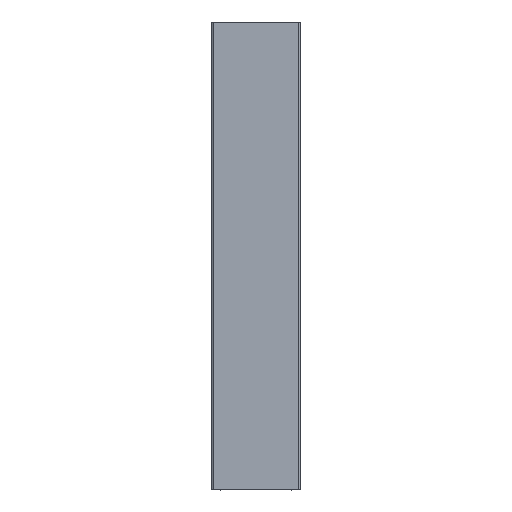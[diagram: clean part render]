
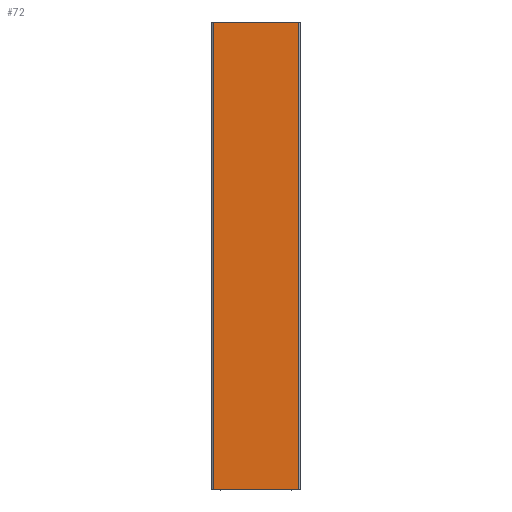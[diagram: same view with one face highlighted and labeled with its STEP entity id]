
A CAD part, top view. The second image highlights one B-rep face of the part: STEP entity #72.
In plain terms, the highlighted planar face has unit normal (0, 0, 1).
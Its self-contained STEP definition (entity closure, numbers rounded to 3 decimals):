
#72 = ADVANCED_FACE( '', ( #140 ), #141, .F. );
#140 = FACE_OUTER_BOUND( '', #201, .T. );
#141 = PLANE( '', #202 );
#201 = EDGE_LOOP( '', ( #355, #356, #357, #358 ) );
#202 = AXIS2_PLACEMENT_3D( '', #359, #360, #361 );
#355 = ORIENTED_EDGE( '', *, *, #440, .T. );
#356 = ORIENTED_EDGE( '', *, *, #392, .F. );
#357 = ORIENTED_EDGE( '', *, *, #425, .F. );
#358 = ORIENTED_EDGE( '', *, *, #413, .T. );
#359 = CARTESIAN_POINT( '', ( -5.45, 60., 3.3 ) );
#360 = DIRECTION( '', ( 0., 0., -1. ) );
#361 = DIRECTION( '', ( -1., 0., 0. ) );
#392 = EDGE_CURVE( '', #468, #463, #470, .T. );
#413 = EDGE_CURVE( '', #505, #503, #506, .T. );
#425 = EDGE_CURVE( '', #505, #468, #523, .T. );
#440 = EDGE_CURVE( '', #503, #463, #538, .T. );
#463 = VERTEX_POINT( '', #565 );
#468 = VERTEX_POINT( '', #571 );
#470 = LINE( '', #573, #574 );
#503 = VERTEX_POINT( '', #617 );
#505 = VERTEX_POINT( '', #619 );
#506 = LINE( '', #620, #621 );
#523 = LINE( '', #645, #646 );
#538 = LINE( '', #663, #664 );
#565 = CARTESIAN_POINT( '', ( 5.45, 0., 3.3 ) );
#571 = CARTESIAN_POINT( '', ( 5.45, 60., 3.3 ) );
#573 = CARTESIAN_POINT( '', ( 5.45, 60., 3.3 ) );
#574 = VECTOR( '', #691, 1000. );
#617 = CARTESIAN_POINT( '', ( -5.45, 0., 3.3 ) );
#619 = CARTESIAN_POINT( '', ( -5.45, 60., 3.3 ) );
#620 = CARTESIAN_POINT( '', ( -5.45, 60., 3.3 ) );
#621 = VECTOR( '', #717, 1000. );
#645 = CARTESIAN_POINT( '', ( -5.45, 60., 3.3 ) );
#646 = VECTOR( '', #728, 1000. );
#663 = CARTESIAN_POINT( '', ( -5.45, 0., 3.3 ) );
#664 = VECTOR( '', #755, 1000. );
#691 = DIRECTION( '', ( 0., -1., 0. ) );
#717 = DIRECTION( '', ( 0., -1., 0. ) );
#728 = DIRECTION( '', ( 1., 0., 0. ) );
#755 = DIRECTION( '', ( 1., 0., 0. ) );
